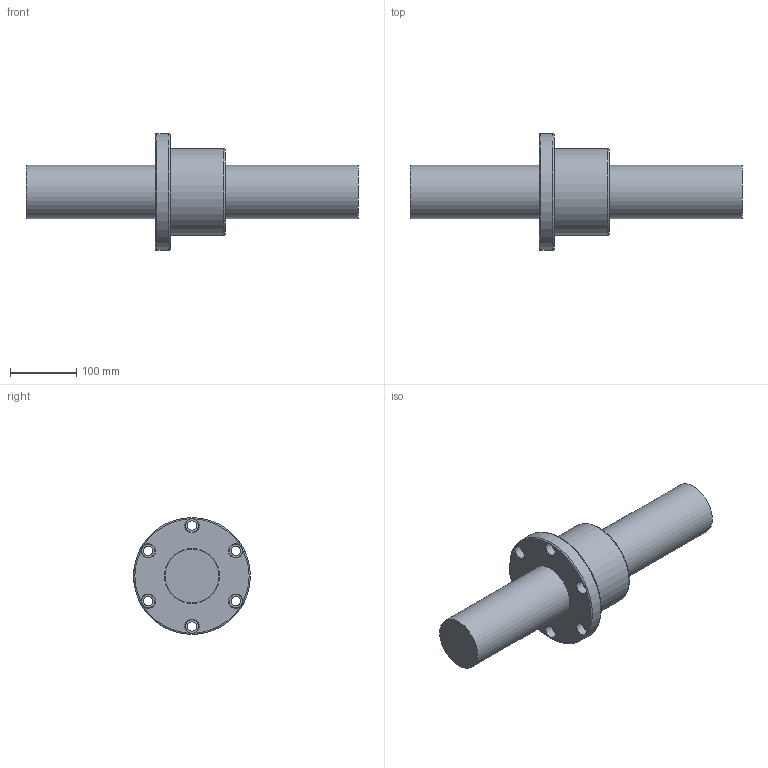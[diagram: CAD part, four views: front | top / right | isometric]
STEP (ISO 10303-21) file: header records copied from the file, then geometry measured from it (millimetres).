
FILE_DESCRIPTION (( 'STEP AP203' ), '1' );
FILE_NAME ('SFV08010N-4.8.step', '2024-05-20T03:40:35', ( '' ), ( '' ), 'SwSTEP 2.0', 'SolidWorks 2022', '' );
FILE_SCHEMA (( 'CONFIG_CONTROL_DESIGN' ));
Length unit declared in the file: millimetre
Products named in the file (1): SFV08010N-4.8
Bounding box: 500 x 176 x 176 mm (x, y, z)
Volume: 3612768.7 mm3; surface area: 253345.2 mm2
Topology: 2 solids, 2 shells, 57 faces, 146 edges, 94 vertices
Faces by surface type: cylinder 24, cone 13, plane 12, bspline 5, torus 3
Full cylindrical faces by diameter (mm): 4 x1, 7 x6, 14 x6, 20 x6, 81 x1, 82.8 x1, 130 x1, 176 x1
Entity records: 3769 total; most frequent: CARTESIAN_POINT 2717, DIRECTION 204, ORIENTED_EDGE 150, EDGE_LOOP 102, AXIS2_PLACEMENT_3D 101, EDGE_CURVE 75, FACE_OUTER_BOUND 72, VERTEX_POINT 65
